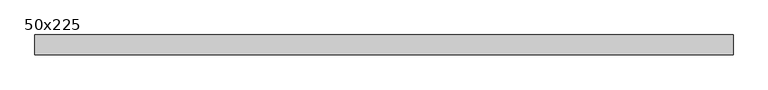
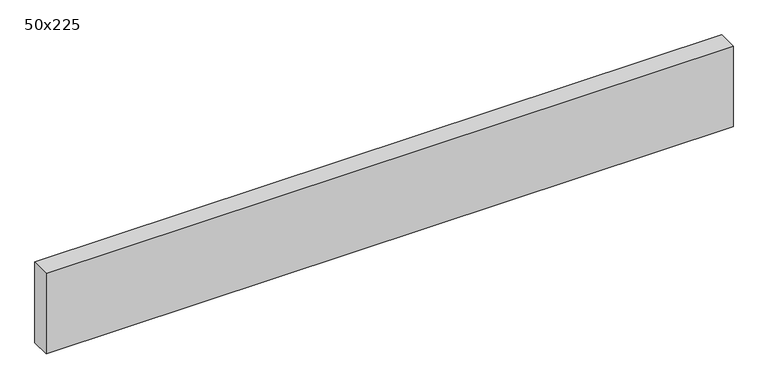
"""IFC4 building model written with IfcOpenShell, lengths in millimetres: beam geometry, Graded Timber : 50x225."""

from ifc_helpers import new_model, si_unit, frame, origin, place, context, project, spatial, polyline, outline, extrude, source, transform, mapped, element, save


def beam_50x225_0182384d(model_context):
    return source(origin(), model_context, "Body", "SweptSolid", [
        extrude(outline(polyline([(896.0, 25.0), (896.0, -25.0), (-875.0, -25.0), (-875.0, 25.0), (896.0, 25.0)])), frame((0.0, 0.0, -110.0), z_axis=(0.0, 0.0, 1.0), x_axis=(1.0, 0.0, 0.0)), (0.0, 0.0, 1.0), 220.0),
    ])


if __name__ == "__main__":
    model = new_model("IFC4")
    model_context = context("Model", 3, world=origin())
    ifc_project = project(units=[si_unit("LENGTHUNIT", "METRE", prefix="MILLI")], contexts=[model_context])
    site = spatial("IfcSite", under=ifc_project)
    building = spatial("IfcBuilding", under=site)
    placement = place(None, origin())
    beam_50x225_shape = beam_50x225_0182384d(model_context)
    element("IfcBeam", 1, ObjectType="Graded Timber : 50x225", at=placement, inside=building, context=model_context, shape_type="MappedRepresentation", body=[
        mapped(beam_50x225_shape, transform((0.0, 0.0, 0.0), x_axis=(1.0, 0.0, 0.0), y_axis=(0.0, 1.0, 0.0), z_axis=(0.0, 0.0, 1.0))),
    ])
    save(model, "model.ifc")
